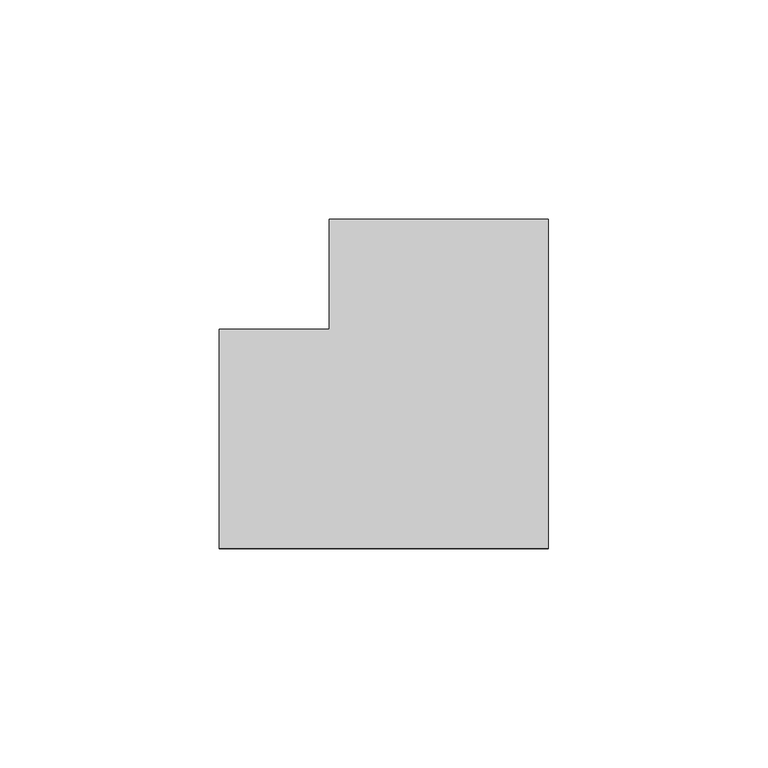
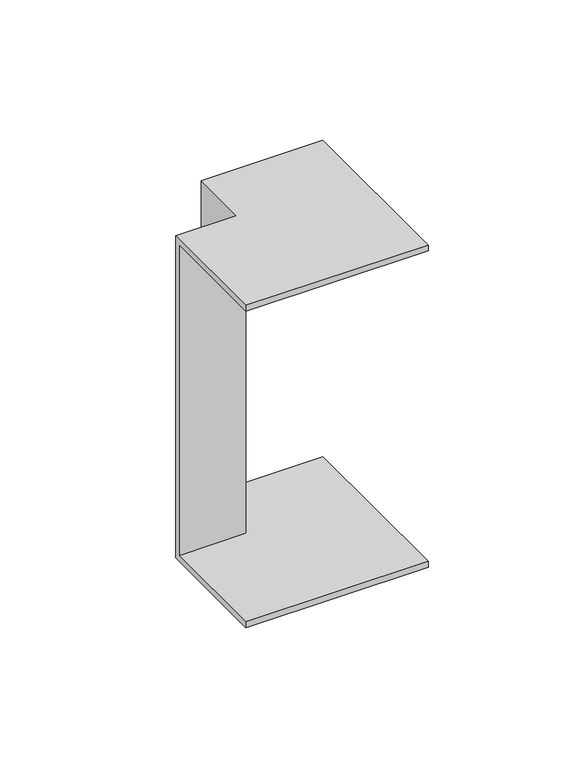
"""IFC4 building model written with IfcOpenShell, lengths in millimetres: cable carrier fitting geometry, КНС_УголВнешний_ILF_DKC : Белый."""

from ifc_helpers import new_model, si_unit, origin, place, context, project, spatial, faceted_brep, source, transform, mapped, element, save


def cable_carrier_fitting_208f4170(model_context):
    return source(origin(), model_context, "Body", "Brep", [
        faceted_brep([(-50.0, 25.0, 70.0), (-50.0, 25.0, -70.0), (-50.0, -25.0, -70.0), (-50.0, -25.0, -67.5), (-50.0, 22.5, -67.5), (-50.0, 22.5, 67.5), (-50.0, -25.0, 67.5), (-50.0, -25.0, 70.0), (-25.0, 50.0, 70.0), (25.0, 50.0, 70.0), (25.0, 50.0, 67.5), (-22.5, 50.0, 67.5), (-22.5, 50.0, -67.5), (25.0, 50.0, -67.5), (25.0, 50.0, -70.0), (-25.0, 50.0, -70.0), (-25.0, 25.0, 70.0), (-25.0, 25.0, -70.0), (25.0, -25.0, -70.0), (25.0, -25.0, -67.5), (-22.5, 22.5, -67.5), (-22.5, 22.5, 67.5), (25.0, -25.0, 67.5), (25.0, -25.0, 70.0)], [[[0, 1, 2, 3, 4, 5, 6, 7]], [[8, 9, 10, 11, 12, 13, 14, 15]], [[1, 0, 16, 17]], [[2, 1, 17, 15, 14, 18]], [[3, 2, 18, 19]], [[4, 3, 19, 13, 12, 20]], [[5, 4, 20, 21]], [[6, 5, 21, 11, 10, 22]], [[7, 6, 22, 23]], [[0, 7, 23, 9, 8, 16]], [[17, 16, 8, 15]], [[19, 18, 14, 13]], [[21, 20, 12, 11]], [[23, 22, 10, 9]]]),
    ])


if __name__ == "__main__":
    model = new_model("IFC4")
    model_context = context("Model", 3, world=origin())
    ifc_project = project(units=[si_unit("LENGTHUNIT", "METRE", prefix="MILLI")], contexts=[model_context])
    site = spatial("IfcSite", under=ifc_project)
    building = spatial("IfcBuilding", under=site)
    placement = place(None, origin())
    cable_carrier_fitting_shape = cable_carrier_fitting_208f4170(model_context)
    element("IfcCableCarrierFitting", 1, ObjectType="КНС_УголВнешний_ILF_DKC : Белый", at=placement, inside=building, context=model_context, shape_type="MappedRepresentation", body=[
        mapped(cable_carrier_fitting_shape, transform((0.0, 0.0, 0.0), x_axis=(1.0, 0.0, 0.0), y_axis=(0.0, 1.0, 0.0), z_axis=(0.0, 0.0, 1.0))),
    ])
    save(model, "model.ifc")
